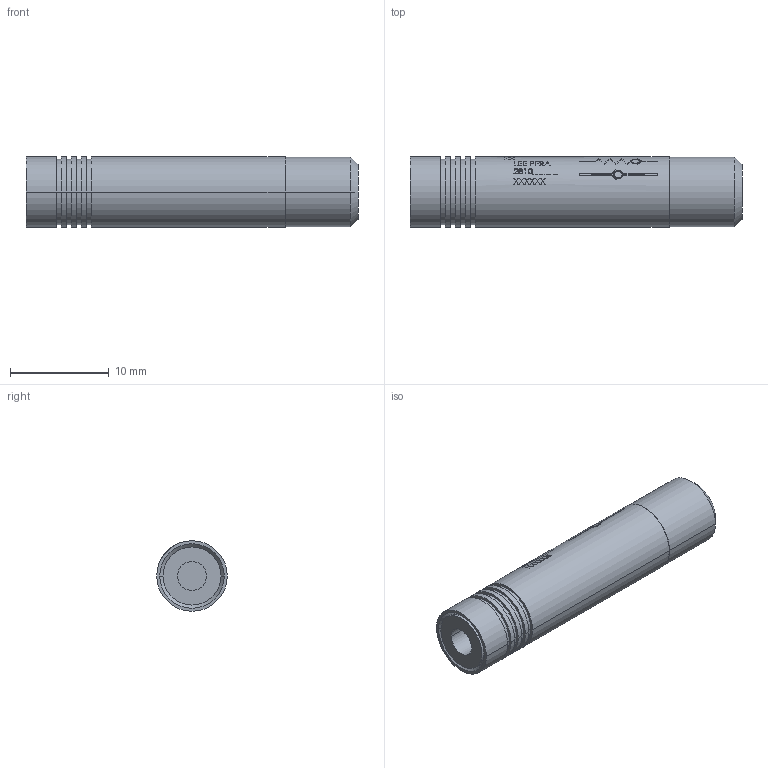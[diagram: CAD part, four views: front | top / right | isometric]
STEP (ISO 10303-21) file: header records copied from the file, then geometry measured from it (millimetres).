
FILE_DESCRIPTION (( 'STEP AP203' ), '1' );
FILE_NAME ('3DPFRA2810----.STEP', '2021-06-17T15:17:27', ( '' ), ( '' ), 'SwSTEP 2.0', 'SolidWorks 2019', '' );
FILE_SCHEMA (( 'CONFIG_CONTROL_DESIGN' ));
Length unit declared in the file: inch
Products named in the file (1): 3DPFRA2810----
Bounding box: 33.66 x 7.14 x 7.14 mm (x, y, z)
Volume: 1272.2 mm3; surface area: 942.4 mm2
Topology: 1 solids, 1 shells, 367 faces, 953 edges, 634 vertices
Faces by surface type: bspline 160, plane 144, cylinder 59, cone 4
Entity records: 13985 total; most frequent: CARTESIAN_POINT 6294, ORIENTED_EDGE 1906, DIRECTION 972, EDGE_CURVE 953, VERTEX_POINT 634, B_SPLINE_CURVE_WITH_KNOTS 531, EDGE_LOOP 413, ADVANCED_FACE 367
